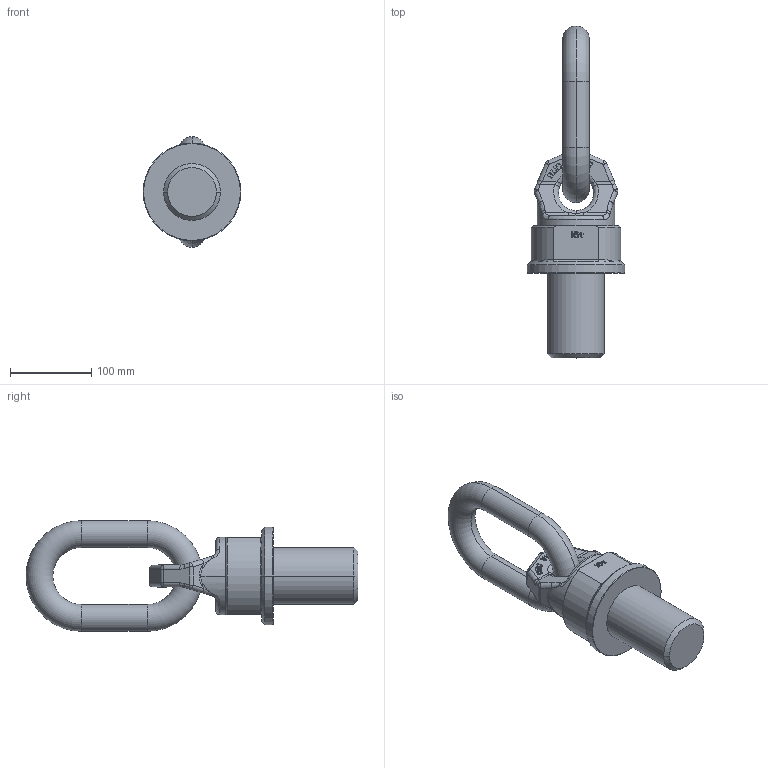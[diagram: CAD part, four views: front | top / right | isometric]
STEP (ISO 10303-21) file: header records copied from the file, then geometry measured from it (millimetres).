
FILE_DESCRIPTION((''),'2;1');
FILE_NAME('001-M34118-P-30_ASM','2019-06-27T',('anja.joas'),(''),'PRO/ENGINEER BY PARAMETRIC TECHNOLOGY CORPORATION, 2011490','PRO/ENGINEER BY PARAMETRIC TECHNOLOGY CORPORATION, 2011490','');
FILE_SCHEMA(('CONFIG_CONTROL_DESIGN'));
Length unit declared in the file: millimetre
Products named in the file (4): 001-M33231-P-10_AF0; 001-M31621-P-10; 001-M31050-P-01; 001-M34118-P-30_ASM
Assembly tree (3 placements, depth 2):
  001-M34118-P-30_ASM
    001-M33231-P-10_AF0
    001-M31621-P-10
    001-M31050-P-01
Bounding box: 120 x 408 x 136 mm (x, y, z)
Volume: 1624196.7 mm3; surface area: 147881.4 mm2
Topology: 3 solids, 3 shells, 441 faces, 1179 edges, 760 vertices
Faces by surface type: plane 322, cylinder 55, bspline 46, torus 10, cone 8
Entity records: 15191 total; most frequent: CARTESIAN_POINT 4357, ORIENTED_EDGE 2358, DIRECTION 2023, EDGE_CURVE 1179, VECTOR 939, LINE 939, VERTEX_POINT 760, AXIS2_PLACEMENT_3D 542
